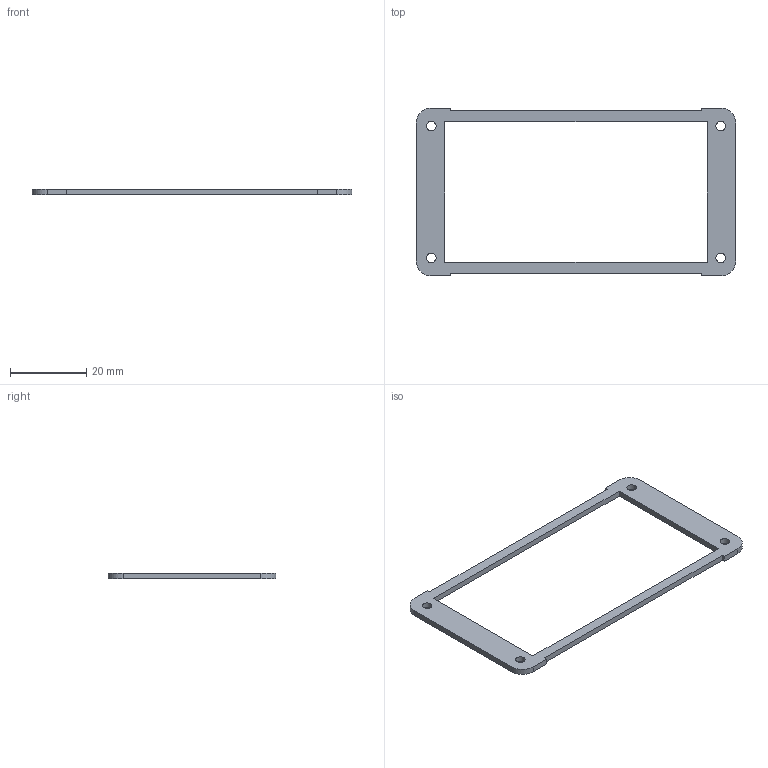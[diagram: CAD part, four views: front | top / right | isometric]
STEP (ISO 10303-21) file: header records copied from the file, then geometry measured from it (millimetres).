
FILE_DESCRIPTION(/* description */ (''),/* implementation_level */ '2;1');
FILE_NAME(/* name */ '1457KPG-10.stp',/* time_stamp */ '2024-09-03T11:36:52-04:00',/* author */ ('tfoster'),/* organization */ (''),/* preprocessor_version */ 'ST-DEVELOPER v20',/* originating_system */ 'Autodesk Inventor 2024',/* authorisation */ '');
FILE_SCHEMA (('AUTOMOTIVE_DESIGN { 1 0 10303 214 3 1 1 }'));
Length unit declared in the file: millimetre
Products named in the file (1): 80mm Gasket
Bounding box: 84 x 44.11 x 1.57 mm (x, y, z)
Volume: 1604 mm3; surface area: 2817.9 mm2
Topology: 1 solids, 1 shells, 26 faces, 72 edges, 48 vertices
Faces by surface type: plane 18, cylinder 8
Full cylindrical faces by diameter (mm): 2.5 x4
Entity records: 895 total; most frequent: CARTESIAN_POINT 147, ORIENTED_EDGE 144, DIRECTION 142, EDGE_CURVE 72, LINE 56, VECTOR 56, VERTEX_POINT 48, AXIS2_PLACEMENT_3D 43
